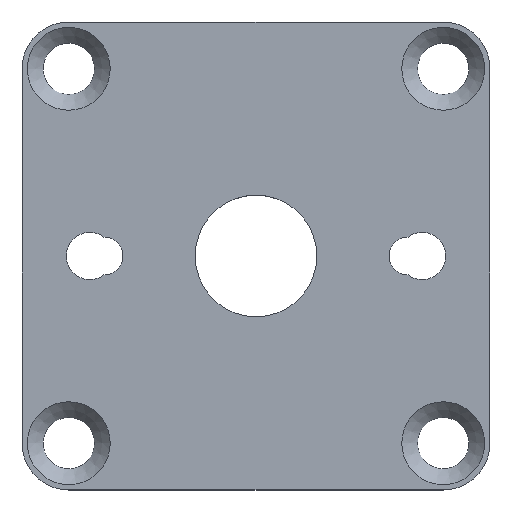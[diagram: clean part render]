
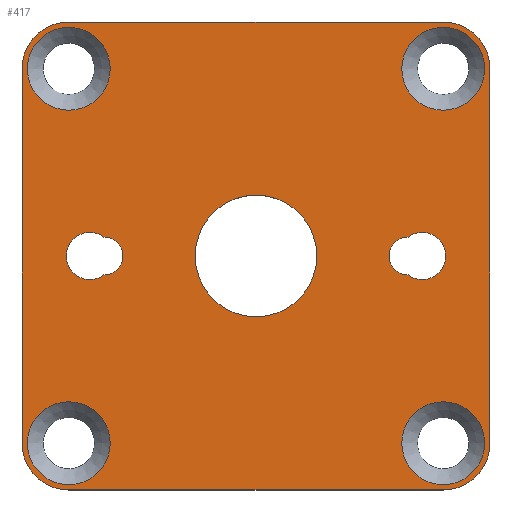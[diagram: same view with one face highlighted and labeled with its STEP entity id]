
A CAD part, top view. The second image highlights one B-rep face of the part: STEP entity #417.
In plain terms, the highlighted planar face has unit normal (0, 0, 1).
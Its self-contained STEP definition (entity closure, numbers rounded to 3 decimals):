
#19=FACE_BOUND('',#65,.T.);
#20=FACE_BOUND('',#66,.T.);
#21=FACE_BOUND('',#67,.T.);
#22=FACE_BOUND('',#68,.T.);
#23=FACE_BOUND('',#69,.T.);
#24=FACE_BOUND('',#70,.T.);
#25=FACE_BOUND('',#71,.T.);
#34=PLANE('',#465);
#41=FACE_OUTER_BOUND('',#64,.T.);
#64=EDGE_LOOP('',(#292,#293,#294,#295,#296,#297,#298,#299));
#65=EDGE_LOOP('',(#300,#301));
#66=EDGE_LOOP('',(#302,#303));
#67=EDGE_LOOP('',(#304));
#68=EDGE_LOOP('',(#305));
#69=EDGE_LOOP('',(#306));
#70=EDGE_LOOP('',(#307));
#71=EDGE_LOOP('',(#308));
#101=LINE('',#663,#130);
#104=LINE('',#669,#133);
#105=LINE('',#673,#134);
#106=LINE('',#677,#135);
#130=VECTOR('',#526,10.);
#133=VECTOR('',#531,10.);
#134=VECTOR('',#534,10.);
#135=VECTOR('',#537,10.);
#158=CIRCLE('',#463,10.);
#159=CIRCLE('',#466,10.);
#160=CIRCLE('',#467,10.);
#161=CIRCLE('',#468,10.);
#162=CIRCLE('',#469,4.05);
#163=CIRCLE('',#470,5.05);
#164=CIRCLE('',#471,4.05);
#165=CIRCLE('',#472,5.05);
#166=CIRCLE('',#473,8.85);
#167=CIRCLE('',#474,8.85);
#168=CIRCLE('',#475,8.85);
#169=CIRCLE('',#476,8.85);
#170=CIRCLE('',#477,13.);
#189=VERTEX_POINT('',#656);
#190=VERTEX_POINT('',#658);
#191=VERTEX_POINT('',#662);
#193=VERTEX_POINT('',#668);
#194=VERTEX_POINT('',#670);
#195=VERTEX_POINT('',#672);
#196=VERTEX_POINT('',#674);
#197=VERTEX_POINT('',#676);
#198=VERTEX_POINT('',#679);
#199=VERTEX_POINT('',#680);
#200=VERTEX_POINT('',#683);
#201=VERTEX_POINT('',#684);
#202=VERTEX_POINT('',#687);
#203=VERTEX_POINT('',#689);
#204=VERTEX_POINT('',#691);
#205=VERTEX_POINT('',#693);
#206=VERTEX_POINT('',#695);
#227=EDGE_CURVE('',#189,#190,#158,.T.);
#229=EDGE_CURVE('',#191,#190,#101,.T.);
#232=EDGE_CURVE('',#189,#193,#104,.T.);
#233=EDGE_CURVE('',#194,#193,#159,.T.);
#234=EDGE_CURVE('',#194,#195,#105,.T.);
#235=EDGE_CURVE('',#196,#195,#160,.T.);
#236=EDGE_CURVE('',#196,#197,#106,.T.);
#237=EDGE_CURVE('',#191,#197,#161,.T.);
#238=EDGE_CURVE('',#198,#199,#162,.T.);
#239=EDGE_CURVE('',#199,#198,#163,.T.);
#240=EDGE_CURVE('',#200,#201,#164,.T.);
#241=EDGE_CURVE('',#201,#200,#165,.T.);
#242=EDGE_CURVE('',#202,#202,#166,.T.);
#243=EDGE_CURVE('',#203,#203,#167,.T.);
#244=EDGE_CURVE('',#204,#204,#168,.T.);
#245=EDGE_CURVE('',#205,#205,#169,.T.);
#246=EDGE_CURVE('',#206,#206,#170,.T.);
#292=ORIENTED_EDGE('',*,*,#227,.F.);
#293=ORIENTED_EDGE('',*,*,#232,.T.);
#294=ORIENTED_EDGE('',*,*,#233,.F.);
#295=ORIENTED_EDGE('',*,*,#234,.T.);
#296=ORIENTED_EDGE('',*,*,#235,.F.);
#297=ORIENTED_EDGE('',*,*,#236,.T.);
#298=ORIENTED_EDGE('',*,*,#237,.F.);
#299=ORIENTED_EDGE('',*,*,#229,.T.);
#300=ORIENTED_EDGE('',*,*,#238,.T.);
#301=ORIENTED_EDGE('',*,*,#239,.T.);
#302=ORIENTED_EDGE('',*,*,#240,.T.);
#303=ORIENTED_EDGE('',*,*,#241,.T.);
#304=ORIENTED_EDGE('',*,*,#242,.T.);
#305=ORIENTED_EDGE('',*,*,#243,.T.);
#306=ORIENTED_EDGE('',*,*,#244,.T.);
#307=ORIENTED_EDGE('',*,*,#245,.T.);
#308=ORIENTED_EDGE('',*,*,#246,.T.);
#417=ADVANCED_FACE('',(#41,#19,#20,#21,#22,#23,#24,#25),#34,.T.);
#463=AXIS2_PLACEMENT_3D('',#659,#521,#522);
#465=AXIS2_PLACEMENT_3D('',#667,#529,#530);
#466=AXIS2_PLACEMENT_3D('',#671,#532,#533);
#467=AXIS2_PLACEMENT_3D('',#675,#535,#536);
#468=AXIS2_PLACEMENT_3D('',#678,#538,#539);
#469=AXIS2_PLACEMENT_3D('',#681,#540,#541);
#470=AXIS2_PLACEMENT_3D('',#682,#542,#543);
#471=AXIS2_PLACEMENT_3D('',#685,#544,#545);
#472=AXIS2_PLACEMENT_3D('',#686,#546,#547);
#473=AXIS2_PLACEMENT_3D('',#688,#548,#549);
#474=AXIS2_PLACEMENT_3D('',#690,#550,#551);
#475=AXIS2_PLACEMENT_3D('',#692,#552,#553);
#476=AXIS2_PLACEMENT_3D('',#694,#554,#555);
#477=AXIS2_PLACEMENT_3D('',#696,#556,#557);
#521=DIRECTION('center_axis',(0.,0.,-1.));
#522=DIRECTION('ref_axis',(-0.707,-0.707,0.));
#526=DIRECTION('',(0.,-1.,0.));
#529=DIRECTION('center_axis',(0.,0.,1.));
#530=DIRECTION('ref_axis',(1.,0.,0.));
#531=DIRECTION('',(1.,0.,0.));
#532=DIRECTION('center_axis',(0.,0.,-1.));
#533=DIRECTION('ref_axis',(0.707,-0.707,0.));
#534=DIRECTION('',(0.,1.,0.));
#535=DIRECTION('center_axis',(0.,0.,-1.));
#536=DIRECTION('ref_axis',(0.707,0.707,0.));
#537=DIRECTION('',(-1.,0.,0.));
#538=DIRECTION('center_axis',(0.,0.,-1.));
#539=DIRECTION('ref_axis',(-0.707,0.707,0.));
#540=DIRECTION('center_axis',(0.,0.,-1.));
#541=DIRECTION('ref_axis',(1.,0.,0.));
#542=DIRECTION('center_axis',(0.,0.,-1.));
#543=DIRECTION('ref_axis',(1.,0.,0.));
#544=DIRECTION('center_axis',(0.,0.,-1.));
#545=DIRECTION('ref_axis',(1.,0.,0.));
#546=DIRECTION('center_axis',(0.,0.,-1.));
#547=DIRECTION('ref_axis',(1.,0.,0.));
#548=DIRECTION('center_axis',(0.,0.,-1.));
#549=DIRECTION('ref_axis',(1.,0.,0.));
#550=DIRECTION('center_axis',(0.,0.,-1.));
#551=DIRECTION('ref_axis',(1.,0.,0.));
#552=DIRECTION('center_axis',(0.,0.,-1.));
#553=DIRECTION('ref_axis',(1.,0.,0.));
#554=DIRECTION('center_axis',(0.,0.,-1.));
#555=DIRECTION('ref_axis',(1.,0.,0.));
#556=DIRECTION('center_axis',(0.,0.,-1.));
#557=DIRECTION('ref_axis',(1.,0.,0.));
#656=CARTESIAN_POINT('',(-40.,-50.,2.));
#658=CARTESIAN_POINT('',(-50.,-40.,2.));
#659=CARTESIAN_POINT('Origin',(-40.,-40.,2.));
#662=CARTESIAN_POINT('',(-50.,40.,2.));
#663=CARTESIAN_POINT('',(-50.,50.,2.));
#667=CARTESIAN_POINT('Origin',(0.,0.,2.));
#668=CARTESIAN_POINT('',(40.,-50.,2.));
#669=CARTESIAN_POINT('',(-50.,-50.,2.));
#670=CARTESIAN_POINT('',(50.,-40.,2.));
#671=CARTESIAN_POINT('Origin',(40.,-40.,2.));
#672=CARTESIAN_POINT('',(50.,40.,2.));
#673=CARTESIAN_POINT('',(50.,-50.,2.));
#674=CARTESIAN_POINT('',(40.,50.,2.));
#675=CARTESIAN_POINT('Origin',(40.,40.,2.));
#676=CARTESIAN_POINT('',(-40.,50.,2.));
#677=CARTESIAN_POINT('',(50.,50.,2.));
#678=CARTESIAN_POINT('Origin',(-40.,40.,2.));
#679=CARTESIAN_POINT('',(32.483,-4.05,2.));
#680=CARTESIAN_POINT('',(32.483,4.05,2.));
#681=CARTESIAN_POINT('Origin',(32.5,0.,2.));
#682=CARTESIAN_POINT('Origin',(35.5,0.,2.));
#683=CARTESIAN_POINT('',(-32.483,4.05,2.));
#684=CARTESIAN_POINT('',(-32.483,-4.05,2.));
#685=CARTESIAN_POINT('Origin',(-32.5,0.,2.));
#686=CARTESIAN_POINT('Origin',(-35.5,0.,2.));
#687=CARTESIAN_POINT('',(31.15,-40.,2.));
#688=CARTESIAN_POINT('Origin',(40.,-40.,2.));
#689=CARTESIAN_POINT('',(-48.85,40.,2.));
#690=CARTESIAN_POINT('Origin',(-40.,40.,2.));
#691=CARTESIAN_POINT('',(31.15,40.,2.));
#692=CARTESIAN_POINT('Origin',(40.,40.,2.));
#693=CARTESIAN_POINT('',(-48.85,-40.,2.));
#694=CARTESIAN_POINT('Origin',(-40.,-40.,2.));
#695=CARTESIAN_POINT('',(-13.,0.,2.));
#696=CARTESIAN_POINT('Origin',(0.,0.,2.));
